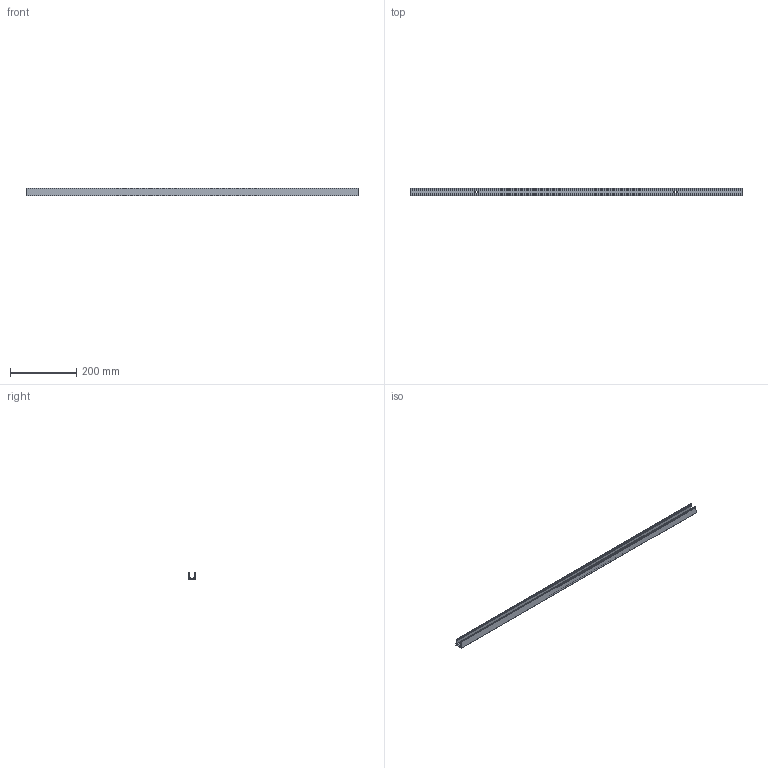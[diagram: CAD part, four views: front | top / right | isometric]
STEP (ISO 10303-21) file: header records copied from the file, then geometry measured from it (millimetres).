
FILE_DESCRIPTION(/* description */ (''),/* implementation_level */ '2;1');
FILE_NAME(/* name */ 'NF_1616+1717_TRANSPARENT_PROFILE_L1000_R01.step',/* time_stamp */ '2026-07-17T17:53:11+02:00',/* author */ (''),/* organization */ (''),/* preprocessor_version */ 'ST-DEVELOPER v20.1',/* originating_system */ 'Autodesk Translation Framework v15.8.0.0',/* authorisation */ '');
FILE_SCHEMA (('AUTOMOTIVE_DESIGN { 1 0 10303 214 3 1 1 }'));
Length unit declared in the file: millimetre
Products named in the file (1): 2026-07-17-17-42-56-862
Bounding box: 1000 x 23.53 x 22.93 mm (x, y, z)
Volume: 166305.6 mm3; surface area: 152181.6 mm2
Topology: 1 solids, 1 shells, 50 faces, 144 edges, 96 vertices
Faces by surface type: plane 36, cylinder 14
Entity records: 1677 total; most frequent: CARTESIAN_POINT 291, ORIENTED_EDGE 288, DIRECTION 274, EDGE_CURVE 144, LINE 116, VECTOR 116, VERTEX_POINT 96, AXIS2_PLACEMENT_3D 79
